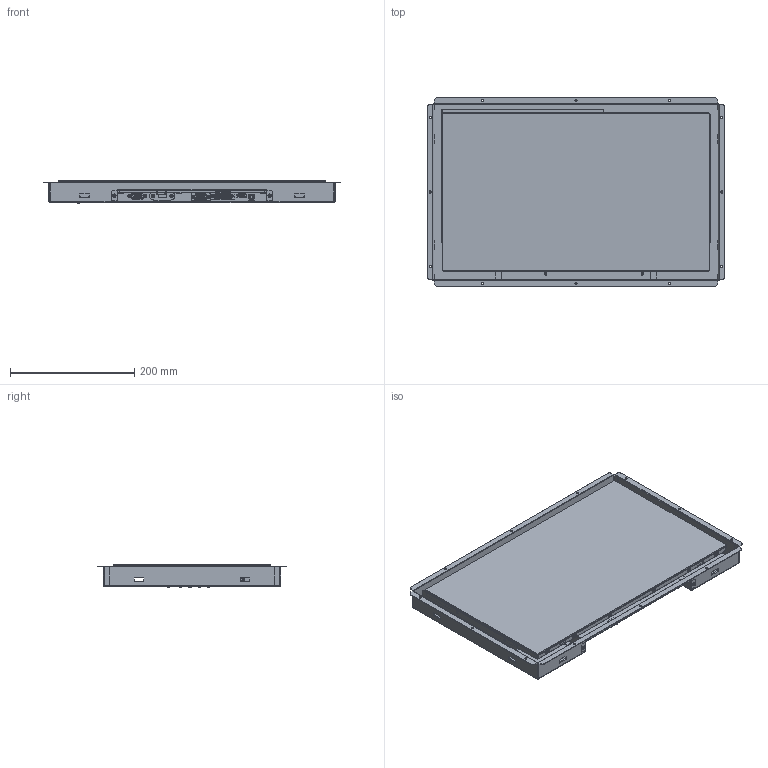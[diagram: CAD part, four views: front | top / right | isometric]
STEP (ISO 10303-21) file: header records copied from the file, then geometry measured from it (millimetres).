
FILE_DESCRIPTION (( 'STEP AP203' ), '1' );
FILE_NAME ('IDS-3118WR-30HDA1E.STEP', '2016-02-23T02:18:37', ( 'itd.mis' ), ( '' ), 'SwSTEP 2.0', 'SolidWorks 2013', '' );
FILE_SCHEMA (( 'CONFIG_CONTROL_DESIGN' ));
Products named in the file (1): IDS-3118WR-30HDA1E
Bounding box: 478 x 303 x 37 mm (x, y, z)
Surface area: 821424.6 mm2 (no closed solid volume)
Topology: 0 solids, 121 shells, 1110 faces, 7208 edges, 6073 vertices
Faces by surface type: plane 460, cylinder 443, cone 122, bspline 56, torus 29
Entity records: 76175 total; most frequent: CARTESIAN_POINT 23721, DIRECTION 9922, ORIENTED_EDGE 9261, EDGE_CURVE 7199, VERTEX_POINT 6073, LINE 4600, VECTOR 4600, AXIS2_PLACEMENT_3D 2661
